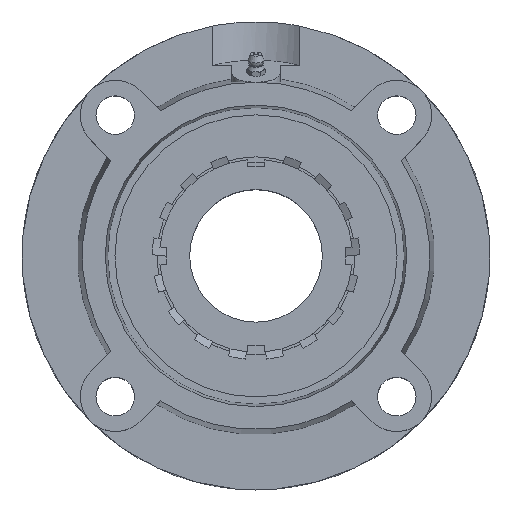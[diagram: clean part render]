
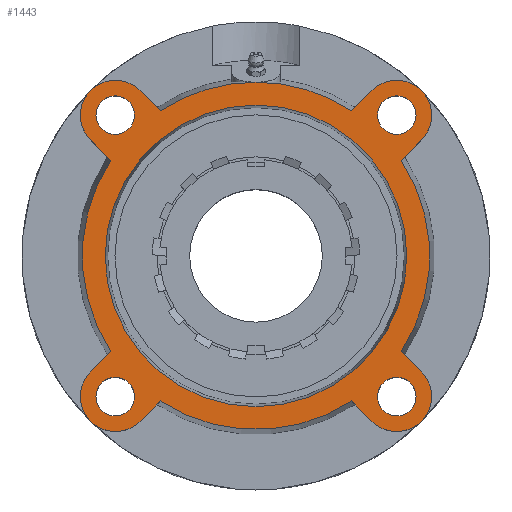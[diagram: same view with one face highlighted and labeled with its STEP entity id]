
A CAD part, top view. The second image highlights one B-rep face of the part: STEP entity #1443.
In plain terms, the highlighted planar face has unit normal (0, 0, 1).
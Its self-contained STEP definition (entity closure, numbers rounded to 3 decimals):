
#181=CARTESIAN_POINT('',(50.336,-58.336,22.));
#182=VERTEX_POINT('',#181);
#183=CARTESIAN_POINT('',(58.336,-58.336,22.));
#184=DIRECTION('',(0.0,0.0,-1.0));
#185=DIRECTION('',(1.0,0.0,0.0));
#186=AXIS2_PLACEMENT_3D('',#183,#184,#185);
#187=CIRCLE('',#186,8.0);
#188=EDGE_CURVE('',#182,#182,#187,.T.);
#209=CARTESIAN_POINT('',(-66.336,58.336,22.));
#210=VERTEX_POINT('',#209);
#211=CARTESIAN_POINT('',(-58.336,58.336,22.));
#212=DIRECTION('',(0.0,0.0,-1.0));
#213=DIRECTION('',(1.0,0.0,0.0));
#214=AXIS2_PLACEMENT_3D('',#211,#212,#213);
#215=CIRCLE('',#214,8.0);
#216=EDGE_CURVE('',#210,#210,#215,.T.);
#237=CARTESIAN_POINT('',(-66.336,-58.336,22.));
#238=VERTEX_POINT('',#237);
#239=CARTESIAN_POINT('',(-58.336,-58.336,22.));
#240=DIRECTION('',(0.0,0.0,-1.0));
#241=DIRECTION('',(1.0,0.0,0.0));
#242=AXIS2_PLACEMENT_3D('',#239,#240,#241);
#243=CIRCLE('',#242,8.0);
#244=EDGE_CURVE('',#238,#238,#243,.T.);
#265=CARTESIAN_POINT('',(50.336,58.336,22.));
#266=VERTEX_POINT('',#265);
#267=CARTESIAN_POINT('',(58.336,58.336,22.));
#268=DIRECTION('',(0.0,0.0,-1.0));
#269=DIRECTION('',(1.0,0.0,0.0));
#270=AXIS2_PLACEMENT_3D('',#267,#268,#269);
#271=CIRCLE('',#270,8.0);
#272=EDGE_CURVE('',#266,#266,#271,.T.);
#445=CARTESIAN_POINT('',(0.0,62.5,22.));
#446=VERTEX_POINT('',#445);
#447=CARTESIAN_POINT('',(0.0,0.,22.));
#448=DIRECTION('',(0.0,0.0,-1.0));
#449=DIRECTION('',(0.0,1.0,0.0));
#450=AXIS2_PLACEMENT_3D('',#447,#448,#449);
#451=CIRCLE('',#450,62.5);
#452=EDGE_CURVE('',#446,#446,#451,.T.);
#722=CARTESIAN_POINT('',(0.,72.0,22.0));
#723=VERTEX_POINT('',#722);
#845=CARTESIAN_POINT('',(-39.616,60.122,22.));
#846=VERTEX_POINT('',#845);
#860=CARTESIAN_POINT('',(0.0,0.,22.));
#861=DIRECTION('',(0.0,0.0,-1.0));
#862=DIRECTION('',(0.0,1.0,0.0));
#863=AXIS2_PLACEMENT_3D('',#860,#861,#862);
#864=CIRCLE('',#863,72.0);
#865=EDGE_CURVE('',#846,#723,#864,.T.);
#878=CARTESIAN_POINT('',(39.616,60.122,22.));
#879=VERTEX_POINT('',#878);
#880=CARTESIAN_POINT('',(0.0,0.,22.));
#881=DIRECTION('',(0.0,0.0,-1.0));
#882=DIRECTION('',(0.0,1.0,0.0));
#883=AXIS2_PLACEMENT_3D('',#880,#881,#882);
#884=CIRCLE('',#883,72.0);
#885=EDGE_CURVE('',#723,#879,#884,.T.);
#909=CARTESIAN_POINT('',(-60.122,39.616,22.));
#910=VERTEX_POINT('',#909);
#926=CARTESIAN_POINT('',(-68.589,48.083,22.0));
#927=VERTEX_POINT('',#926);
#928=CARTESIAN_POINT('',(-60.122,39.616,22.0));
#929=DIRECTION('',(-0.707,0.707,0.0));
#930=VECTOR('',#929,11.975);
#931=LINE('',#928,#930);
#932=EDGE_CURVE('',#910,#927,#931,.T.);
#956=CARTESIAN_POINT('',(-39.616,-60.122,22.));
#957=VERTEX_POINT('',#956);
#973=CARTESIAN_POINT('',(-48.083,-68.589,22.));
#974=VERTEX_POINT('',#973);
#975=CARTESIAN_POINT('',(-39.616,-60.122,22.));
#976=DIRECTION('',(-0.707,-0.707,0.0));
#977=VECTOR('',#976,11.975);
#978=LINE('',#975,#977);
#979=EDGE_CURVE('',#957,#974,#978,.T.);
#1003=CARTESIAN_POINT('',(60.122,-39.616,22.));
#1004=VERTEX_POINT('',#1003);
#1020=CARTESIAN_POINT('',(68.589,-48.083,22.));
#1021=VERTEX_POINT('',#1020);
#1022=CARTESIAN_POINT('',(60.122,-39.616,22.));
#1023=DIRECTION('',(0.707,-0.707,0.0));
#1024=VECTOR('',#1023,11.975);
#1025=LINE('',#1022,#1024);
#1026=EDGE_CURVE('',#1004,#1021,#1025,.T.);
#1051=CARTESIAN_POINT('',(48.083,68.589,22.0));
#1052=VERTEX_POINT('',#1051);
#1053=CARTESIAN_POINT('',(39.616,60.122,22.0));
#1054=DIRECTION('',(0.707,0.707,0.0));
#1055=VECTOR('',#1054,11.975);
#1056=LINE('',#1053,#1055);
#1057=EDGE_CURVE('',#879,#1052,#1056,.T.);
#1076=CARTESIAN_POINT('',(39.616,-60.122,22.));
#1077=VERTEX_POINT('',#1076);
#1099=CARTESIAN_POINT('',(48.083,-68.589,22.));
#1100=VERTEX_POINT('',#1099);
#1107=CARTESIAN_POINT('',(48.083,-68.589,22.));
#1108=DIRECTION('',(-0.707,0.707,0.0));
#1109=VECTOR('',#1108,11.975);
#1110=LINE('',#1107,#1109);
#1111=EDGE_CURVE('',#1100,#1077,#1110,.T.);
#1121=CARTESIAN_POINT('',(-68.589,-48.083,22.));
#1122=VERTEX_POINT('',#1121);
#1123=CARTESIAN_POINT('',(-58.336,-58.336,22.));
#1124=DIRECTION('',(0.0,0.0,-1.0));
#1125=DIRECTION('',(-0.642,0.767,0.0));
#1126=AXIS2_PLACEMENT_3D('',#1123,#1124,#1125);
#1127=CIRCLE('',#1126,14.5);
#1128=EDGE_CURVE('',#974,#1122,#1127,.T.);
#1163=CARTESIAN_POINT('',(-60.122,-39.616,22.));
#1164=VERTEX_POINT('',#1163);
#1185=CARTESIAN_POINT('',(-68.589,-48.083,22.));
#1186=DIRECTION('',(0.707,0.707,0.0));
#1187=VECTOR('',#1186,11.975);
#1188=LINE('',#1185,#1187);
#1189=EDGE_CURVE('',#1122,#1164,#1188,.T.);
#1199=CARTESIAN_POINT('',(-48.083,68.589,22.0));
#1200=VERTEX_POINT('',#1199);
#1201=CARTESIAN_POINT('',(-58.336,58.336,22.));
#1202=DIRECTION('',(0.0,0.0,-1.0));
#1203=DIRECTION('',(0.767,0.642,0.0));
#1204=AXIS2_PLACEMENT_3D('',#1201,#1202,#1203);
#1205=CIRCLE('',#1204,14.5);
#1206=EDGE_CURVE('',#927,#1200,#1205,.T.);
#1234=CARTESIAN_POINT('',(-48.083,68.589,22.0));
#1235=DIRECTION('',(0.707,-0.707,0.0));
#1236=VECTOR('',#1235,11.975);
#1237=LINE('',#1234,#1236);
#1238=EDGE_CURVE('',#1200,#846,#1237,.T.);
#1248=CARTESIAN_POINT('',(68.589,48.083,22.0));
#1249=VERTEX_POINT('',#1248);
#1250=CARTESIAN_POINT('',(58.336,58.336,22.));
#1251=DIRECTION('',(0.0,0.0,-1.0));
#1252=DIRECTION('',(0.642,-0.767,0.0));
#1253=AXIS2_PLACEMENT_3D('',#1250,#1251,#1252);
#1254=CIRCLE('',#1253,14.5);
#1255=EDGE_CURVE('',#1052,#1249,#1254,.T.);
#1284=CARTESIAN_POINT('',(60.122,39.616,22.));
#1285=VERTEX_POINT('',#1284);
#1306=CARTESIAN_POINT('',(68.589,48.083,22.0));
#1307=DIRECTION('',(-0.707,-0.707,0.0));
#1308=VECTOR('',#1307,11.975);
#1309=LINE('',#1306,#1308);
#1310=EDGE_CURVE('',#1249,#1285,#1309,.T.);
#1320=CARTESIAN_POINT('',(58.336,-58.336,22.));
#1321=DIRECTION('',(0.0,0.0,-1.0));
#1322=DIRECTION('',(-0.767,-0.642,0.0));
#1323=AXIS2_PLACEMENT_3D('',#1320,#1321,#1322);
#1324=CIRCLE('',#1323,14.5);
#1325=EDGE_CURVE('',#1021,#1100,#1324,.T.);
#1386=CARTESIAN_POINT('',(0.0,36.0,22.0));
#1387=DIRECTION('',(0.0,0.0,1.0));
#1388=DIRECTION('',(1.0,0.0,0.0));
#1389=AXIS2_PLACEMENT_3D('',#1386,#1387,#1388);
#1390=PLANE('',#1389);
#1391=CARTESIAN_POINT('',(0.0,0.,22.));
#1392=DIRECTION('',(0.0,0.0,-1.0));
#1393=DIRECTION('',(0.0,1.0,0.0));
#1394=AXIS2_PLACEMENT_3D('',#1391,#1392,#1393);
#1395=CIRCLE('',#1394,72.0);
#1396=EDGE_CURVE('',#1077,#957,#1395,.T.);
#1397=ORIENTED_EDGE('',*,*,#1396,.F.);
#1398=ORIENTED_EDGE('',*,*,#1111,.F.);
#1399=ORIENTED_EDGE('',*,*,#1325,.F.);
#1400=ORIENTED_EDGE('',*,*,#1026,.F.);
#1401=CARTESIAN_POINT('',(0.0,0.,22.));
#1402=DIRECTION('',(0.0,0.0,-1.0));
#1403=DIRECTION('',(0.0,1.0,0.0));
#1404=AXIS2_PLACEMENT_3D('',#1401,#1402,#1403);
#1405=CIRCLE('',#1404,72.0);
#1406=EDGE_CURVE('',#1285,#1004,#1405,.T.);
#1407=ORIENTED_EDGE('',*,*,#1406,.F.);
#1408=ORIENTED_EDGE('',*,*,#1310,.F.);
#1409=ORIENTED_EDGE('',*,*,#1255,.F.);
#1410=ORIENTED_EDGE('',*,*,#1057,.F.);
#1411=ORIENTED_EDGE('',*,*,#885,.F.);
#1412=ORIENTED_EDGE('',*,*,#865,.F.);
#1413=ORIENTED_EDGE('',*,*,#1238,.F.);
#1414=ORIENTED_EDGE('',*,*,#1206,.F.);
#1415=ORIENTED_EDGE('',*,*,#932,.F.);
#1416=CARTESIAN_POINT('',(0.0,0.,22.));
#1417=DIRECTION('',(0.0,0.0,-1.0));
#1418=DIRECTION('',(0.0,1.0,0.0));
#1419=AXIS2_PLACEMENT_3D('',#1416,#1417,#1418);
#1420=CIRCLE('',#1419,72.0);
#1421=EDGE_CURVE('',#1164,#910,#1420,.T.);
#1422=ORIENTED_EDGE('',*,*,#1421,.F.);
#1423=ORIENTED_EDGE('',*,*,#1189,.F.);
#1424=ORIENTED_EDGE('',*,*,#1128,.F.);
#1425=ORIENTED_EDGE('',*,*,#979,.F.);
#1426=EDGE_LOOP('',(#1397,#1398,#1399,#1400,#1407,#1408,#1409,#1410,#1411,#1412,#1413,#1414,#1415,#1422,#1423,#1424,#1425));
#1427=FACE_OUTER_BOUND('',#1426,.T.);
#1428=ORIENTED_EDGE('',*,*,#188,.T.);
#1429=EDGE_LOOP('',(#1428));
#1430=FACE_BOUND('',#1429,.T.);
#1431=ORIENTED_EDGE('',*,*,#216,.T.);
#1432=EDGE_LOOP('',(#1431));
#1433=FACE_BOUND('',#1432,.T.);
#1434=ORIENTED_EDGE('',*,*,#244,.T.);
#1435=EDGE_LOOP('',(#1434));
#1436=FACE_BOUND('',#1435,.T.);
#1437=ORIENTED_EDGE('',*,*,#272,.T.);
#1438=EDGE_LOOP('',(#1437));
#1439=FACE_BOUND('',#1438,.T.);
#1440=ORIENTED_EDGE('',*,*,#452,.T.);
#1441=EDGE_LOOP('',(#1440));
#1442=FACE_BOUND('',#1441,.T.);
#1443=ADVANCED_FACE('',(#1427,#1430,#1433,#1436,#1439,#1442),#1390,.T.);
